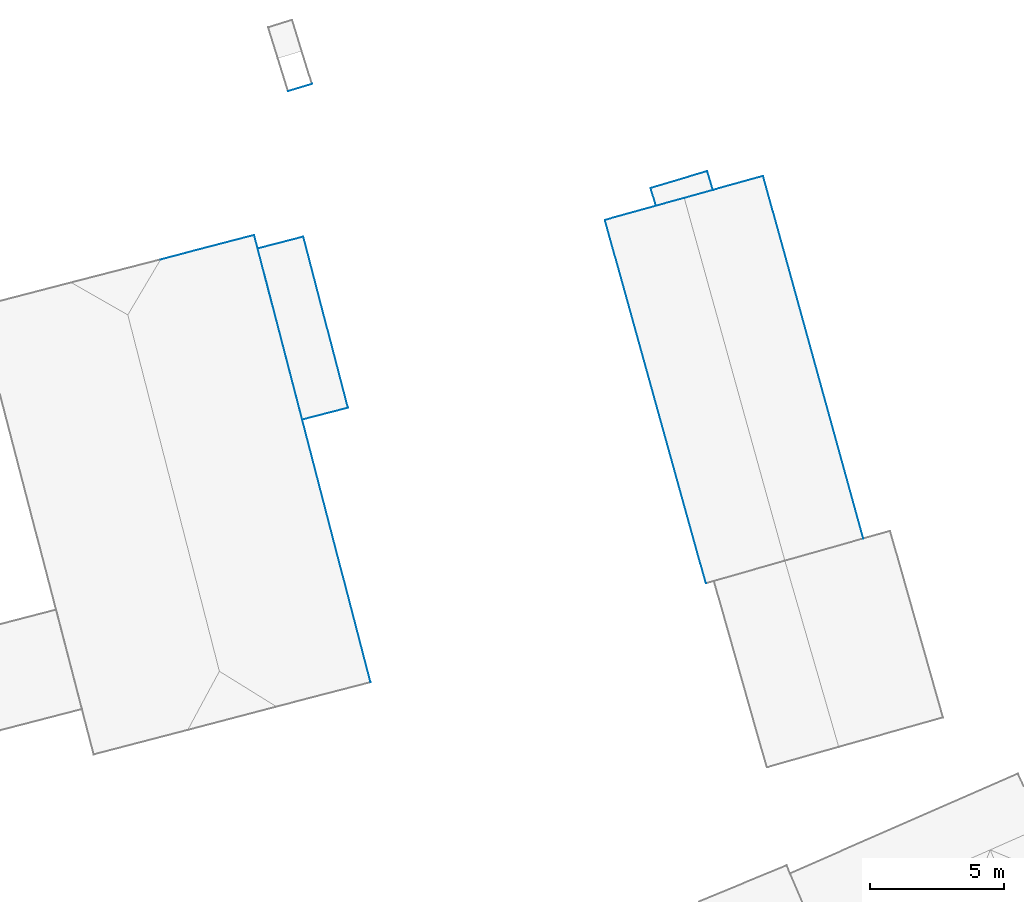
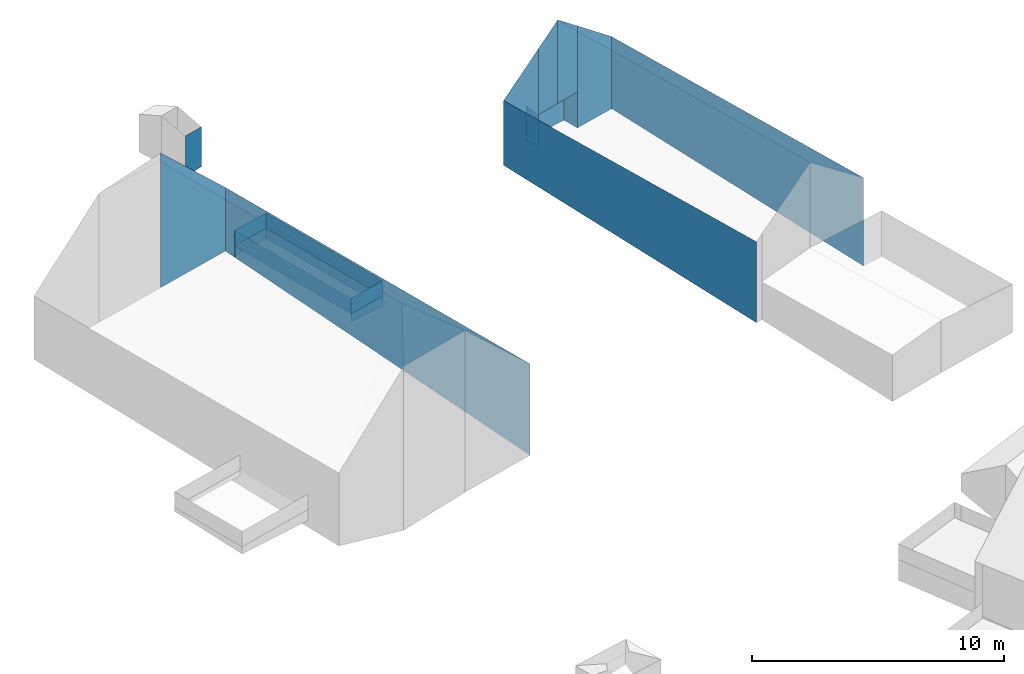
# Not in any storey, part 38 of 59: 24 walls.
"""IFC4 building model written with IfcOpenShell, lengths in metres."""

from ifc_helpers import new_model, entity, si_unit, converted_unit, origin, place, context, subcontext, project, spatial, face_set, surface_model, element, save


model = new_model("IFC4")

# Units and contexts
model_context = context("Model", 3, precision=1e-05, world=origin())
body_context = subcontext(model_context, "Body", "Model", "MODEL_VIEW")
ifc_project = project(units=[converted_unit("PLANEANGLEUNIT", "DEGREE", entity("IfcRatioMeasure", 0.0174532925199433), si_unit("PLANEANGLEUNIT", "RADIAN"), dimensions=[0, 0, 0, 0, 0, 0, 0]), si_unit("AREAUNIT", "SQUARE_METRE"), si_unit("LENGTHUNIT", "METRE")], contexts=[model_context])

# Site, building
site_placement = place(None, origin())
site = spatial("IfcSite", under=ifc_project, at=site_placement, Name="_site")
building_1_placement = place(site_placement, origin())
building_1 = spatial("IfcBuilding", under=site, at=building_1_placement, Name="_building")

# Walls
wall_1_placement = place(building_1_placement, origin())
element("IfcWall", 1, at=wall_1_placement, inside=building_1, Name="Wall", PredefinedType="NOTDEFINED", context=body_context, shape_type="SurfaceModel", body=[
    surface_model("IfcFaceBasedSurfaceModel", [(227.49, 261.03, 226.83), (228.56, 261.33, 225.99), (228.56, 261.33, 222.79), (227.49, 261.03, 222.79)], [face_set([[[0, 1, 2, 3]]])]),
])
wall_2_placement = place(building_1_placement, origin())
element("IfcWall", 2, at=wall_2_placement, inside=building_1, Name="Wall", PredefinedType="NOTDEFINED", context=body_context, shape_type="SurfaceModel", body=[
    surface_model("IfcFaceBasedSurfaceModel", [(226.44, 260.74, 225.99), (227.49, 261.03, 226.83), (227.49, 261.03, 222.79), (226.44, 260.74, 222.79)], [face_set([[[0, 1, 2, 3]]])]),
])
wall_3_placement = place(building_1_placement, origin())
element("IfcWall", 3, at=wall_3_placement, inside=building_1, Name="Wall", PredefinedType="NOTDEFINED", context=body_context, shape_type="SurfaceModel", body=[
    surface_model("IfcFaceBasedSurfaceModel", [(224.54, 260.211, 224.46), (226.44, 260.74, 225.99), (226.44, 260.74, 221.194), (224.54, 260.211, 221.328)], [face_set([[[0, 1, 2, 3]]])]),
])
wall_4_placement = place(building_1_placement, origin())
element("IfcWall", 4, at=wall_4_placement, inside=building_1, Name="Wall", PredefinedType="NOTDEFINED", context=body_context, shape_type="SurfaceModel", body=[
    surface_model("IfcFaceBasedSurfaceModel", [(228.56, 261.33, 225.99), (230.43, 261.85, 224.5), (230.43, 261.85, 221.01), (228.56, 261.33, 221.044)], [face_set([[[0, 1, 2, 3]]])]),
])
wall_5_placement = place(building_1_placement, origin())
element("IfcWall", 5, at=wall_5_placement, inside=building_1, Name="Wall", PredefinedType="NOTDEFINED", context=body_context, shape_type="SurfaceModel", body=[
    surface_model("IfcFaceBasedSurfaceModel", [(228.3, 246.68, 224.52), (224.54, 260.211, 224.46), (224.54, 260.211, 221.328), (228.3, 246.68, 220.601)], [face_set([[[0, 1, 2, 3]]])]),
])
wall_6_placement = place(building_1_placement, origin())
element("IfcWall", 6, at=wall_6_placement, inside=building_1, Name="Wall", PredefinedType="NOTDEFINED", context=body_context, shape_type="SurfaceModel", body=[
    surface_model("IfcFaceBasedSurfaceModel", [(230.43, 261.85, 224.5), (234.16, 248.35, 224.55), (234.16, 248.35, 220.281), (230.43, 261.85, 221.01)], [face_set([[[0, 1, 2, 3]]])]),
])
wall_7_placement = place(building_1_placement, origin())
element("IfcWall", 7, at=wall_7_placement, inside=building_1, Name="Wall", PredefinedType="NOTDEFINED", context=body_context, shape_type="SurfaceModel", body=[
    surface_model("IfcFaceBasedSurfaceModel", [(226.44, 260.74, 222.79), (226.24, 261.4, 222.9), (226.24, 261.4, 221.223), (226.44, 260.74, 221.194)], [face_set([[[0, 1, 2, 3]]])]),
])
wall_8_placement = place(building_1_placement, origin())
element("IfcWall", 8, at=wall_8_placement, inside=building_1, Name="Wall", PredefinedType="NOTDEFINED", context=body_context, shape_type="SurfaceModel", body=[
    surface_model("IfcFaceBasedSurfaceModel", [(226.24, 261.4, 222.9), (228.35, 262.029, 222.9), (228.35, 262.029, 221.075), (226.24, 261.4, 221.223)], [face_set([[[0, 1, 2, 3]]])]),
])
wall_9_placement = place(building_1_placement, origin())
element("IfcWall", 9, at=wall_9_placement, inside=building_1, Name="Wall", PredefinedType="NOTDEFINED", context=body_context, shape_type="SurfaceModel", body=[
    surface_model("IfcFaceBasedSurfaceModel", [(228.35, 262.029, 222.9), (228.56, 261.33, 222.79), (228.56, 261.33, 221.044), (228.35, 262.029, 221.075)], [face_set([[[0, 1, 2, 3]]])]),
])

# Building
building_2_placement = place(site_placement, origin())
building_2 = spatial("IfcBuilding", under=site, at=building_2_placement, Name="_building")

# Wall
wall_10_placement = place(building_2_placement, origin())
element("IfcWall", 10, at=wall_10_placement, inside=building_2, Name="Wall", PredefinedType="NOTDEFINED", context=body_context, shape_type="SurfaceModel", body=[
    surface_model("IfcFaceBasedSurfaceModel", [(213.63, 265.279, 223.94), (212.74, 265.01, 223.96), (212.74, 265.01, 222.0), (213.63, 265.279, 222.0)], [face_set([[[0, 1, 2, 3]]])]),
])

# Building
building_3_placement = place(site_placement, origin())
building_3 = spatial("IfcBuilding", under=site, at=building_3_placement, Name="_building")

# Walls
wall_11_placement = place(building_3_placement, origin())
element("IfcWall", 11, at=wall_11_placement, inside=building_3, Name="Wall", PredefinedType="NOTDEFINED", context=body_context, shape_type="SurfaceModel", body=[
    surface_model("IfcFaceBasedSurfaceModel", [(207.99, 258.74, 228.61), (211.48, 259.65, 225.17), (211.48, 259.65, 222.087), (207.99, 258.74, 222.09)], [face_set([[[0, 1, 2, 3]]])]),
])
wall_12_placement = place(building_3_placement, origin())
element("IfcWall", 12, at=wall_12_placement, inside=building_3, Name="Wall", PredefinedType="NOTDEFINED", context=body_context, shape_type="SurfaceModel", body=[
    surface_model("IfcFaceBasedSurfaceModel", [(211.48, 259.65, 225.17), (215.81, 243.0, 225.21), (215.81, 243.0, 220.793), (211.48, 259.65, 222.087)], [face_set([[[0, 1, 2, 3]]])]),
])
wall_13_placement = place(building_3_placement, origin())
element("IfcWall", 13, at=wall_13_placement, inside=building_3, Name="Wall", PredefinedType="NOTDEFINED", context=body_context, shape_type="SurfaceModel", body=[
    surface_model("IfcFaceBasedSurfaceModel", [(214.97, 253.221, 222.59), (213.27, 252.779, 222.59), (213.27, 252.779, 223.34), (214.97, 253.221, 223.34)], [face_set([[[0, 1, 2, 3]]])]),
])
wall_14_placement = place(building_3_placement, origin())
element("IfcWall", 14, at=wall_14_placement, inside=building_3, Name="Wall", PredefinedType="NOTDEFINED", context=body_context, shape_type="SurfaceModel", body=[
    surface_model("IfcFaceBasedSurfaceModel", [(213.31, 259.59, 222.59), (214.97, 253.221, 222.59), (214.97, 253.221, 223.34), (213.31, 259.59, 223.34)], [face_set([[[0, 1, 2, 3]]])]),
])
wall_15_placement = place(building_3_placement, origin())
element("IfcWall", 15, at=wall_15_placement, inside=building_3, Name="Wall", PredefinedType="NOTDEFINED", context=body_context, shape_type="SurfaceModel", body=[
    surface_model("IfcFaceBasedSurfaceModel", [(211.61, 259.15, 222.59), (213.31, 259.59, 222.59), (213.31, 259.59, 223.34), (211.61, 259.15, 223.34)], [face_set([[[0, 1, 2, 3]]])]),
])
wall_16_placement = place(building_3_placement, origin())
element("IfcWall", 16, at=wall_16_placement, inside=building_3, Name="Wall", PredefinedType="NOTDEFINED", context=body_context, shape_type="SurfaceModel", body=[
    surface_model("IfcFaceBasedSurfaceModel", [(213.27, 252.779, 222.59), (211.61, 259.15, 222.59), (211.61, 259.15, 223.34), (213.27, 252.779, 223.34)], [face_set([[[0, 1, 2, 3]]])]),
])
wall_17_placement = place(building_3_placement, origin())
element("IfcWall", 17, at=wall_17_placement, inside=building_3, Name="Wall", PredefinedType="NOTDEFINED", context=body_context, shape_type="SurfaceModel", body=[
    surface_model("IfcFaceBasedSurfaceModel", [(214.97, 253.221, 222.59), (213.27, 252.779, 222.59), (213.27, 252.779, 223.34), (214.97, 253.221, 223.34)], [face_set([[[0, 1, 2, 3]]])]),
])
wall_18_placement = place(building_3_placement, origin())
element("IfcWall", 18, at=wall_18_placement, inside=building_3, Name="Wall", PredefinedType="NOTDEFINED", context=body_context, shape_type="SurfaceModel", body=[
    surface_model("IfcFaceBasedSurfaceModel", [(213.31, 259.59, 222.59), (214.97, 253.221, 222.59), (214.97, 253.221, 223.34), (213.31, 259.59, 223.34)], [face_set([[[0, 1, 2, 3]]])]),
])
wall_19_placement = place(building_3_placement, origin())
element("IfcWall", 19, at=wall_19_placement, inside=building_3, Name="Wall", PredefinedType="NOTDEFINED", context=body_context, shape_type="SurfaceModel", body=[
    surface_model("IfcFaceBasedSurfaceModel", [(211.61, 259.15, 222.59), (213.31, 259.59, 222.59), (213.31, 259.59, 223.34), (211.61, 259.15, 223.34)], [face_set([[[0, 1, 2, 3]]])]),
])
wall_20_placement = place(building_3_placement, origin())
element("IfcWall", 20, at=wall_20_placement, inside=building_3, Name="Wall", PredefinedType="NOTDEFINED", context=body_context, shape_type="SurfaceModel", body=[
    surface_model("IfcFaceBasedSurfaceModel", [(213.27, 252.779, 222.59), (211.61, 259.15, 222.59), (211.61, 259.15, 223.34), (213.27, 252.779, 223.34)], [face_set([[[0, 1, 2, 3]]])]),
])
wall_21_placement = place(building_3_placement, origin())
element("IfcWall", 21, at=wall_21_placement, inside=building_3, Name="Wall", PredefinedType="NOTDEFINED", context=body_context, shape_type="SurfaceModel", body=[
    surface_model("IfcFaceBasedSurfaceModel", [(214.97, 253.221, 222.59), (213.27, 252.779, 222.59), (213.27, 252.779, 222.221), (214.97, 253.221, 222.102)], [face_set([[[0, 1, 2, 3]]])]),
])
wall_22_placement = place(building_3_placement, origin())
element("IfcWall", 22, at=wall_22_placement, inside=building_3, Name="Wall", PredefinedType="NOTDEFINED", context=body_context, shape_type="SurfaceModel", body=[
    surface_model("IfcFaceBasedSurfaceModel", [(213.31, 259.59, 222.59), (214.97, 253.221, 222.59), (214.97, 253.221, 222.102), (213.31, 259.59, 222.098)], [face_set([[[0, 1, 2, 3]]])]),
])
wall_23_placement = place(building_3_placement, origin())
element("IfcWall", 23, at=wall_23_placement, inside=building_3, Name="Wall", PredefinedType="NOTDEFINED", context=body_context, shape_type="SurfaceModel", body=[
    surface_model("IfcFaceBasedSurfaceModel", [(211.61, 259.15, 222.59), (213.31, 259.59, 222.59), (213.31, 259.59, 222.098), (211.61, 259.15, 222.098)], [face_set([[[0, 1, 2, 3]]])]),
])
wall_24_placement = place(building_3_placement, origin())
element("IfcWall", 24, at=wall_24_placement, inside=building_3, Name="Wall", PredefinedType="NOTDEFINED", context=body_context, shape_type="SurfaceModel", body=[
    surface_model("IfcFaceBasedSurfaceModel", [(213.27, 252.779, 222.59), (211.61, 259.15, 222.59), (211.61, 259.15, 222.098), (213.27, 252.779, 222.221)], [face_set([[[0, 1, 2, 3]]])]),
])

save(model, "model.ifc")
